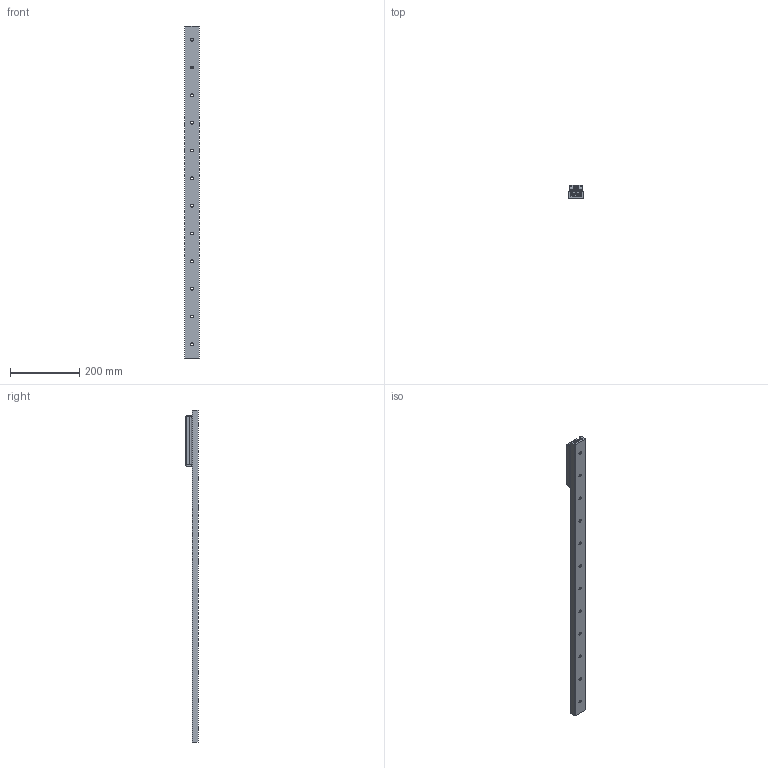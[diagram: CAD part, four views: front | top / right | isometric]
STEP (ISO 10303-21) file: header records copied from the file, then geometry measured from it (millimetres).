
FILE_DESCRIPTION( ( 'STEP AP214' ), '1' );
FILE_NAME( 'p:/temp/worker_30/temp/exporttempdir_4004_87_0YNND/format_2/TGV-00960_1_RV43G-3.stp', '2021-06-09T18:24:02', ( 'License CC BY-ND 4.0' ), ( 'CADENAS' ), ' ', 'PARTsolutions', ' ' );
FILE_SCHEMA( ( 'AUTOMOTIVE_DESIGN { 1 0 10303 214 1 1 1 1 }' ) );
Length unit declared in the file: millimetre
Products named in the file (6): TGV-00960/1/RV43G-3; _TGV43-0960-(3-1); _RVG43-3-slider; _RGNV43R; _RGAV43R; _WR43G-01
Assembly tree (7 placements, depth 2):
  TGV-00960/1/RV43G-3
    _TGV43-0960-(3-1)
    _RVG43-3-slider
    _RGNV43R  x2
    _RGAV43R
    _WR43G-01  x2
Bounding box: 43 x 37 x 960 mm (x, y, z)
Volume: 472435.6 mm3; surface area: 189012.3 mm2
Topology: 7 solids, 7 shells, 1065 faces, 2784 edges, 1815 vertices
Faces by surface type: plane 663, cylinder 308, cone 51, bspline 34, torus 9
Full cylindrical faces by diameter (mm): 1.76 x4, 3 x8, 6 x4, 6.647 x4, 6.8 x3, 8 x3, 8.5 x12, 11 x11, 15 x6, 15.5 x1, 18.98 x2, 19 x1, 31.4 x6
Entity records: 25333 total; most frequent: CARTESIAN_POINT 4022, DIRECTION 3387, ORIENTED_EDGE 3136, EDGE_CURVE 1568, AXIS2_PLACEMENT_3D 1290, VERTEX_POINT 1087, EDGE_LOOP 869, LINE 807
